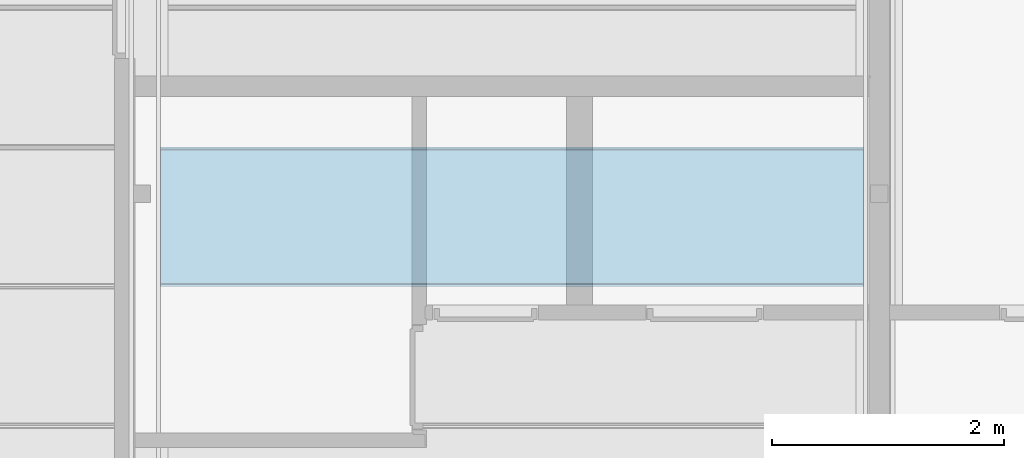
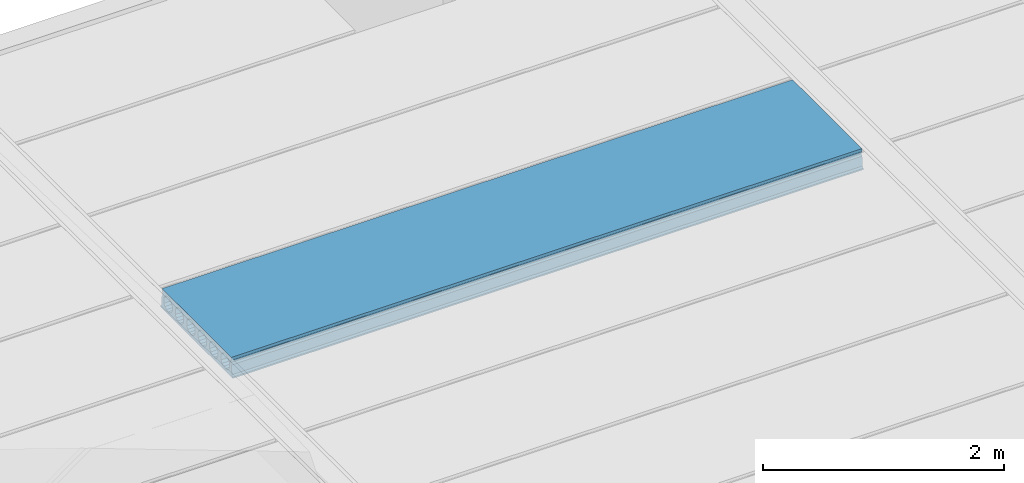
# One storey, part 13 of 45: 1 beam.
"""IFC2X3 building model written with IfcOpenShell, lengths in millimetres."""

from ifc_helpers import new_model, entity, si_unit, converted_unit, frame, origin, place, context, subcontext, project, spatial, faceted_brep, material, element, save


model = new_model("IFC2X3")

# Units and contexts
model_context = context("Model", 3, precision=1e-05, world=origin())
plan_context = context("Plan", 3, precision=1e-05, world=origin())
body_context = subcontext(model_context, "Body", "Model", "MODEL_VIEW")
ifc_project = project(units=[si_unit("LENGTHUNIT", "METRE", prefix="MILLI"), converted_unit("PLANEANGLEUNIT", "DEGREE", entity("IfcPlaneAngleMeasure", 0.0174532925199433), si_unit("PLANEANGLEUNIT", "RADIAN"), dimensions=[0, 0, 0, 0, 0, 0, 0]), si_unit("AREAUNIT", "SQUARE_METRE"), si_unit("VOLUMEUNIT", "CUBIC_METRE")], contexts=[model_context, plan_context])

# Building, storey
building_placement = place(None, origin())
building = spatial("IfcBuilding", under=ifc_project, at=building_placement, Name="HEKF Administrasjonbygg", CompositionType="ELEMENT")
storey_placement = place(building_placement, frame((0.0, 0.0, 6500.0), z_axis=(0.0, 0.0, 1.0), x_axis=(1.0, 0.0, 0.0)))
storey = spatial("IfcBuildingStorey", under=building, at=storey_placement, Name="Plan 1", CompositionType="ELEMENT", Elevation=6500.0)

# Beam
ifc_material = material()
beam_placement = place(storey_placement, frame((0.0, 0.0, -6500.0), z_axis=(0.0, 0.0, 1.0), x_axis=(1.0, 0.0, 0.0)))
element("IfcBeam", 1, at=beam_placement, inside=storey, material=ifc_material, context=body_context, shape_type="Brep", body=[
    faceted_brep([(10135.0, -3599.999999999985, 9684.999999), (10135.0, -3599.999999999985, 9670.0), (16189.99999999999, -3600.0, 9670.000000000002), (16189.99999999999, -3600.0, 9684.999999), (10135.0, -4799.999999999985, 9684.999999), (10135.0, -4799.999999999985, 9670.0), (10135.0, -3599.999999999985, 9670.0), (10135.0, -3599.999999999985, 9684.999999), (10135.0, -3614.99987952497, 9699.999998), (10135.0, -3620.000002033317, 9794.999985), (10135.0, -3635.000003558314, 9809.999985), (10135.0, -3635.000003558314, 9829.999985), (10135.0, -3622.727297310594, 9842.272583), (10135.0, -3624.047732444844, 9870.0), (10135.0, -4775.952372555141, 9870.0), (10135.0, -4777.272729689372, 9842.272735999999), (10135.0, -4765.000000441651, 9829.999985), (10135.0, -4765.000000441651, 9809.999985), (10135.0, -4780.000001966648, 9794.999985), (10135.0, -4784.999999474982, 9699.999998), (10135.0, -4674.999987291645, 9694.999989), (10135.0, -4703.701261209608, 9700.709023), (10135.0, -4728.033020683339, 9716.966995), (10135.0, -4744.290964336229, 9741.298752), (10135.0, -4744.290960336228, 9798.701262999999), (10135.0, -4728.032997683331, 9823.03299), (10135.0, -4703.70124620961, 9839.290955), (10135.0, -4674.999987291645, 9845.0), (10135.0, -4646.298721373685, 9839.290955), (10135.0, -4621.966976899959, 9823.033005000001), (10135.0, -4605.709010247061, 9798.701233), (10135.0, -4605.708980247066, 9741.298767), (10135.0, -4621.966961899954, 9716.966995), (10135.0, -4646.29870537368, 9700.709023), (10135.0, -4484.999967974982, 9694.999989), (10135.0, -4513.701241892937, 9700.709023), (10135.0, -4538.033001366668, 9716.966995), (10135.0, -4554.290945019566, 9741.298752), (10135.0, -4554.290941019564, 9798.701262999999), (10135.0, -4538.032978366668, 9823.03299), (10135.0, -4513.701226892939, 9839.290955), (10135.0, -4484.999967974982, 9845.0), (10135.0, -4456.298702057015, 9839.290955), (10135.0, -4431.966957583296, 9823.033005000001), (10135.0, -4415.708990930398, 9798.701233), (10135.0, -4415.708960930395, 9741.298767), (10135.0, -4431.966942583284, 9716.966995), (10135.0, -4456.298686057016, 9700.709023), (10135.0, -4294.999948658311, 9694.999989), (10135.0, -4323.701222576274, 9700.709023), (10135.0, -4348.032982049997, 9716.966995), (10135.0, -4364.290925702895, 9741.298752), (10135.0, -4364.290921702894, 9798.701262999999), (10135.0, -4348.032959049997, 9823.03299), (10135.0, -4323.701207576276, 9839.290955), (10135.0, -4294.999948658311, 9845.0), (10135.0, -4266.298682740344, 9839.290955), (10135.0, -4241.966938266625, 9823.033005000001), (10135.0, -4225.708971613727, 9798.701233), (10135.0, -4225.708941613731, 9741.298767), (10135.0, -4241.96692326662, 9716.966995), (10135.0, -4266.298666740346, 9700.709023), (10135.0, -4104.99992934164, 9694.999989), (10135.0, -4133.701203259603, 9700.709023), (10135.0, -4158.032962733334, 9716.966995), (10135.0, -4174.290906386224, 9741.298752), (10135.0, -4174.290902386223, 9798.701262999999), (10135.0, -4158.032939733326, 9823.03299), (10135.0, -4133.701188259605, 9839.290955), (10135.0, -4104.99992934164, 9845.0), (10135.0, -4076.29866342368, 9839.290955), (10135.0, -4051.966918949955, 9823.033005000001), (10135.0, -4035.708952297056, 9798.701233), (10135.0, -4035.708922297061, 9741.298767), (10135.0, -4051.96690394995, 9716.966995), (10135.0, -4076.298647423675, 9700.709023), (10135.0, -3914.999910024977, 9694.999989), (10135.0, -3943.701183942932, 9700.709023), (10135.0, -3968.032943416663, 9716.966995), (10135.0, -3984.290887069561, 9741.298752), (10135.0, -3984.29088306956, 9798.701262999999), (10135.0, -3968.032920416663, 9823.03299), (10135.0, -3943.701168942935, 9839.290955), (10135.0, -3914.999910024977, 9845.0), (10135.0, -3886.29864410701, 9839.290955), (10135.0, -3861.966899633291, 9823.033005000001), (10135.0, -3845.708932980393, 9798.701233), (10135.0, -3845.70890298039, 9741.298767), (10135.0, -3861.966884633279, 9716.966995), (10135.0, -3886.298628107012, 9700.709023), (10135.0, -3724.999890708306, 9694.999989), (10135.0, -3753.701164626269, 9700.709023), (10135.0, -3778.032924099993, 9716.966995), (10135.0, -3794.29086775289, 9741.298752), (10135.0, -3794.290863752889, 9798.701262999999), (10135.0, -3778.032901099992, 9823.03299), (10135.0, -3753.701149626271, 9839.290955), (10135.0, -3724.999890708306, 9845.0), (10135.0, -3696.298624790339, 9839.290955), (10135.0, -3671.966880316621, 9823.033005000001), (10135.0, -3655.708913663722, 9798.701233), (10135.0, -3655.708883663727, 9741.298767), (10135.0, -3671.966865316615, 9716.966995), (10135.0, -3696.298608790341, 9700.709023), (16190.0, -4800.0, 9684.999999), (16190.0, -4800.0, 9670.0), (10135.0, -4799.999999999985, 9670.0), (10135.0, -4799.999999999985, 9684.999999), (16189.99999999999, -3600.0, 9684.999999), (16189.99999999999, -3600.0, 9670.000000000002), (16190.0, -4800.0, 9670.0), (16190.0, -4800.0, 9684.999999), (16190.0, -4784.999999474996, 9699.999998), (16190.0, -4780.000001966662, 9794.999985), (16190.0, -4765.000000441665, 9809.999985), (16190.0, -4765.000000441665, 9829.999985), (16190.0, -4777.272729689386, 9842.272735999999), (16190.0, -4775.952372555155, 9870.0), (16190.0, -3624.047732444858, 9870.0), (16190.0, -3622.727297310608, 9842.272583), (16190.0, -3635.000003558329, 9829.999985), (16190.0, -3635.000003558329, 9809.999985), (16190.0, -3620.000002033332, 9794.999985), (16190.0, -3614.999879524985, 9699.999998), (16190.0, -3724.999890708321, 9694.999989), (16190.0, -3696.298608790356, 9700.709023), (16190.0, -3671.96686531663, 9716.966995), (16190.0, -3655.708883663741, 9741.298767), (16190.0, -3655.708913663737, 9798.701233), (16190.0, -3671.966880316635, 9823.033005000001), (16190.0, -3696.298624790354, 9839.290955), (16190.0, -3724.999890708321, 9845.0), (16190.0, -3753.701149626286, 9839.290955), (16190.0, -3778.032901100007, 9823.03299), (16190.0, -3794.290863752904, 9798.701262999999), (16190.0, -3794.290867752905, 9741.298752), (16190.0, -3778.032924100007, 9716.966995), (16190.0, -3753.701164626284, 9700.709023), (16190.0, -3914.999910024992, 9694.999989), (16190.0, -3886.298628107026, 9700.709023), (16190.0, -3861.966884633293, 9716.966995), (16190.0, -3845.708902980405, 9741.298767), (16190.0, -3845.708932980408, 9798.701233), (16190.0, -3861.966899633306, 9823.033005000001), (16190.0, -3886.298644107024, 9839.290955), (16190.0, -3914.999910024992, 9845.0), (16190.0, -3943.701168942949, 9839.290955), (16190.0, -3968.032920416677, 9823.03299), (16190.0, -3984.290883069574, 9798.701262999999), (16190.0, -3984.290887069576, 9741.298752), (16190.0, -3968.032943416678, 9716.966995), (16190.0, -3943.701183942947, 9700.709023), (16190.0, -4104.999929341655, 9694.999989), (16190.0, -4076.29864742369, 9700.709023), (16190.0, -4051.966903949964, 9716.966995), (16190.0, -4035.708922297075, 9741.298767), (16190.0, -4035.708952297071, 9798.701233), (16190.0, -4051.966918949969, 9823.033005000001), (16190.0, -4076.298663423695, 9839.290955), (16190.0, -4104.999929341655, 9845.0), (16190.0, -4133.70118825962, 9839.290955), (16190.0, -4158.032939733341, 9823.03299), (16190.0, -4174.290902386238, 9798.701262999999), (16190.0, -4174.290906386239, 9741.298752), (16190.0, -4158.032962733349, 9716.966995), (16190.0, -4133.701203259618, 9700.709023), (16190.0, -4294.999948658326, 9694.999989), (16190.0, -4266.29866674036, 9700.709023), (16190.0, -4241.966923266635, 9716.966995), (16190.0, -4225.708941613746, 9741.298767), (16190.0, -4225.708971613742, 9798.701233), (16190.0, -4241.96693826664, 9823.033005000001), (16190.0, -4266.298682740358, 9839.290955), (16190.0, -4294.999948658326, 9845.0), (16190.0, -4323.701207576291, 9839.290955), (16190.0, -4348.032959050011, 9823.03299), (16190.0, -4364.290921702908, 9798.701262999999), (16190.0, -4364.29092570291, 9741.298752), (16190.0, -4348.032982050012, 9716.966995), (16190.0, -4323.701222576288, 9700.709023), (16190.0, -4484.999967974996, 9694.999989), (16190.0, -4456.298686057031, 9700.709023), (16190.0, -4431.966942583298, 9716.966995), (16190.0, -4415.708960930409, 9741.298767), (16190.0, -4415.708990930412, 9798.701233), (16190.0, -4431.96695758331, 9823.033005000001), (16190.0, -4456.298702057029, 9839.290955), (16190.0, -4484.999967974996, 9845.0), (16190.0, -4513.701226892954, 9839.290955), (16190.0, -4538.032978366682, 9823.03299), (16190.0, -4554.290941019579, 9798.701262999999), (16190.0, -4554.29094501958, 9741.298752), (16190.0, -4538.033001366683, 9716.966995), (16190.0, -4513.701241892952, 9700.709023), (16190.0, -4674.99998729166, 9694.999989), (16190.0, -4646.298705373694, 9700.709023), (16190.0, -4621.966961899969, 9716.966995), (16190.0, -4605.70898024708, 9741.298767), (16190.0, -4605.709010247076, 9798.701233), (16190.0, -4621.966976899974, 9823.033005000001), (16190.0, -4646.2987213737, 9839.290955), (16190.0, -4674.99998729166, 9845.0), (16190.0, -4703.701246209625, 9839.290955), (16190.0, -4728.032997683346, 9823.03299), (16190.0, -4744.290960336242, 9798.701262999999), (16190.0, -4744.290964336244, 9741.298752), (16190.0, -4728.033020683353, 9716.966995), (16190.0, -4703.701261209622, 9700.709023), (10135.0, -4799.999999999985, 9684.999999), (10135.0, -4784.999999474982, 9699.999998), (16190.0, -4784.999999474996, 9699.999998), (16190.0, -4800.0, 9684.999999), (10135.0, -4784.999999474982, 9699.999998), (10135.0, -4780.000001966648, 9794.999985), (16190.0, -4780.000001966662, 9794.999985), (16190.0, -4784.999999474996, 9699.999998), (10135.0, -4780.000001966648, 9794.999985), (10135.0, -4765.000000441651, 9809.999985), (16190.0, -4765.000000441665, 9809.999985), (16190.0, -4780.000001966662, 9794.999985), (10135.0, -4765.000000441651, 9809.999985), (10135.0, -4765.000000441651, 9829.999985), (16190.0, -4765.000000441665, 9829.999985), (16190.0, -4765.000000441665, 9809.999985), (10135.0, -4765.000000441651, 9829.999985), (10135.0, -4777.272729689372, 9842.272735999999), (16190.0, -4777.272729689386, 9842.272735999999), (16190.0, -4765.000000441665, 9829.999985), (10135.0, -4777.272729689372, 9842.272735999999), (10135.0, -4775.952372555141, 9870.0), (16190.0, -4775.952372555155, 9870.0), (16190.0, -4777.272729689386, 9842.272735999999), (10135.0, -4775.952372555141, 9870.0), (10135.0, -3624.047732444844, 9870.0), (16190.0, -3624.047732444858, 9870.0), (16190.0, -4775.952372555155, 9870.0), (10135.0, -3624.047732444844, 9870.0), (10135.0, -3622.727297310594, 9842.272583), (16190.0, -3622.727297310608, 9842.272583), (16190.0, -3624.047732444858, 9870.0), (10135.0, -3622.727297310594, 9842.272583), (10135.0, -3635.000003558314, 9829.999985), (16190.0, -3635.000003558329, 9829.999985), (16190.0, -3622.727297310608, 9842.272583), (10135.0, -3635.000003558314, 9829.999985), (10135.0, -3635.000003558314, 9809.999985), (16190.0, -3635.000003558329, 9809.999985), (16190.0, -3635.000003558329, 9829.999985), (10135.0, -3635.000003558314, 9809.999985), (10135.0, -3620.000002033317, 9794.999985), (16190.0, -3620.000002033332, 9794.999985), (16190.0, -3635.000003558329, 9809.999985), (10135.0, -3620.000002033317, 9794.999985), (10135.0, -3614.99987952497, 9699.999998), (16190.0, -3614.999879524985, 9699.999998), (16190.0, -3620.000002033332, 9794.999985), (10135.0, -3614.99987952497, 9699.999998), (10135.0, -3599.999999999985, 9684.999999), (16189.99999999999, -3600.0, 9684.999999), (16190.0, -3614.999879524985, 9699.999998), (10135.0, -3599.999999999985, 9670.0), (10135.0, -4799.999999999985, 9670.0), (16190.0, -4800.0, 9670.0), (16189.99999999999, -3600.0, 9670.000000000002), (10135.0, -3724.999890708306, 9694.999989), (10135.0, -3696.298608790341, 9700.709023), (16190.0, -3696.298608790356, 9700.709023), (16190.0, -3724.999890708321, 9694.999989), (10135.0, -3696.298608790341, 9700.709023), (10135.0, -3671.966865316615, 9716.966995), (16190.0, -3671.96686531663, 9716.966995), (16190.0, -3696.298608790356, 9700.709023), (10135.0, -3671.966865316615, 9716.966995), (10135.0, -3655.708883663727, 9741.298767), (16190.0, -3655.708883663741, 9741.298767), (16190.0, -3671.96686531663, 9716.966995), (10135.0, -3655.708883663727, 9741.298767), (10135.0, -3655.708913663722, 9798.701233), (16190.0, -3655.708913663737, 9798.701233), (16190.0, -3655.708883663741, 9741.298767), (10135.0, -3655.708913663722, 9798.701233), (10135.0, -3671.966880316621, 9823.033005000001), (16190.0, -3671.966880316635, 9823.033005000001), (16190.0, -3655.708913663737, 9798.701233), (10135.0, -3671.966880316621, 9823.033005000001), (10135.0, -3696.298624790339, 9839.290955), (16190.0, -3696.298624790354, 9839.290955), (16190.0, -3671.966880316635, 9823.033005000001), (10135.0, -3696.298624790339, 9839.290955), (10135.0, -3724.999890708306, 9845.0), (16190.0, -3724.999890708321, 9845.0), (16190.0, -3696.298624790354, 9839.290955), (10135.0, -3724.999890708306, 9845.0), (10135.0, -3753.701149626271, 9839.290955), (16190.0, -3753.701149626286, 9839.290955), (16190.0, -3724.999890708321, 9845.0), (10135.0, -3753.701149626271, 9839.290955), (10135.0, -3778.032901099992, 9823.03299), (16190.0, -3778.032901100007, 9823.03299), (16190.0, -3753.701149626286, 9839.290955), (10135.0, -3778.032901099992, 9823.03299), (10135.0, -3794.290863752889, 9798.701262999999), (16190.0, -3794.290863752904, 9798.701262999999), (16190.0, -3778.032901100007, 9823.03299), (10135.0, -3794.290863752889, 9798.701262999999), (10135.0, -3794.29086775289, 9741.298752), (16190.0, -3794.290867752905, 9741.298752), (16190.0, -3794.290863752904, 9798.701262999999), (10135.0, -3794.29086775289, 9741.298752), (10135.0, -3778.032924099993, 9716.966995), (16190.0, -3778.032924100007, 9716.966995), (16190.0, -3794.290867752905, 9741.298752), (10135.0, -3778.032924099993, 9716.966995), (10135.0, -3753.701164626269, 9700.709023), (16190.0, -3753.701164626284, 9700.709023), (16190.0, -3778.032924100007, 9716.966995), (10135.0, -3753.701164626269, 9700.709023), (10135.0, -3724.999890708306, 9694.999989), (16190.0, -3724.999890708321, 9694.999989), (16190.0, -3753.701164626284, 9700.709023), (10135.0, -3914.999910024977, 9694.999989), (10135.0, -3886.298628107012, 9700.709023), (16190.0, -3886.298628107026, 9700.709023), (16190.0, -3914.999910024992, 9694.999989), (10135.0, -3886.298628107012, 9700.709023), (10135.0, -3861.966884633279, 9716.966995), (16190.0, -3861.966884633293, 9716.966995), (16190.0, -3886.298628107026, 9700.709023), (10135.0, -3861.966884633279, 9716.966995), (10135.0, -3845.70890298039, 9741.298767), (16190.0, -3845.708902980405, 9741.298767), (16190.0, -3861.966884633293, 9716.966995), (10135.0, -3845.70890298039, 9741.298767), (10135.0, -3845.708932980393, 9798.701233), (16190.0, -3845.708932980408, 9798.701233), (16190.0, -3845.708902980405, 9741.298767), (10135.0, -3845.708932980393, 9798.701233), (10135.0, -3861.966899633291, 9823.033005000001), (16190.0, -3861.966899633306, 9823.033005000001), (16190.0, -3845.708932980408, 9798.701233), (10135.0, -3861.966899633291, 9823.033005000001), (10135.0, -3886.29864410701, 9839.290955), (16190.0, -3886.298644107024, 9839.290955), (16190.0, -3861.966899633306, 9823.033005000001), (10135.0, -3886.29864410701, 9839.290955), (10135.0, -3914.999910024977, 9845.0), (16190.0, -3914.999910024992, 9845.0), (16190.0, -3886.298644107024, 9839.290955), (10135.0, -3914.999910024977, 9845.0), (10135.0, -3943.701168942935, 9839.290955), (16190.0, -3943.701168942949, 9839.290955), (16190.0, -3914.999910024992, 9845.0), (10135.0, -3943.701168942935, 9839.290955), (10135.0, -3968.032920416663, 9823.03299), (16190.0, -3968.032920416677, 9823.03299), (16190.0, -3943.701168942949, 9839.290955), (10135.0, -3968.032920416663, 9823.03299), (10135.0, -3984.29088306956, 9798.701262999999), (16190.0, -3984.290883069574, 9798.701262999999), (16190.0, -3968.032920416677, 9823.03299), (10135.0, -3984.29088306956, 9798.701262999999), (10135.0, -3984.290887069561, 9741.298752), (16190.0, -3984.290887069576, 9741.298752), (16190.0, -3984.290883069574, 9798.701262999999), (10135.0, -3984.290887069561, 9741.298752), (10135.0, -3968.032943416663, 9716.966995), (16190.0, -3968.032943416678, 9716.966995), (16190.0, -3984.290887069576, 9741.298752), (10135.0, -3968.032943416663, 9716.966995), (10135.0, -3943.701183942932, 9700.709023), (16190.0, -3943.701183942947, 9700.709023), (16190.0, -3968.032943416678, 9716.966995), (10135.0, -3943.701183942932, 9700.709023), (10135.0, -3914.999910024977, 9694.999989), (16190.0, -3914.999910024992, 9694.999989), (16190.0, -3943.701183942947, 9700.709023), (10135.0, -4104.99992934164, 9694.999989), (10135.0, -4076.298647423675, 9700.709023), (16190.0, -4076.29864742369, 9700.709023), (16190.0, -4104.999929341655, 9694.999989), (10135.0, -4076.298647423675, 9700.709023), (10135.0, -4051.96690394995, 9716.966995), (16190.0, -4051.966903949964, 9716.966995), (16190.0, -4076.29864742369, 9700.709023), (10135.0, -4051.96690394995, 9716.966995), (10135.0, -4035.708922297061, 9741.298767), (16190.0, -4035.708922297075, 9741.298767), (16190.0, -4051.966903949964, 9716.966995), (10135.0, -4035.708922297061, 9741.298767), (10135.0, -4035.708952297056, 9798.701233), (16190.0, -4035.708952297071, 9798.701233), (16190.0, -4035.708922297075, 9741.298767), (10135.0, -4035.708952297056, 9798.701233), (10135.0, -4051.966918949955, 9823.033005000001), (16190.0, -4051.966918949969, 9823.033005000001), (16190.0, -4035.708952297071, 9798.701233), (10135.0, -4051.966918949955, 9823.033005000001), (10135.0, -4076.29866342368, 9839.290955), (16190.0, -4076.298663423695, 9839.290955), (16190.0, -4051.966918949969, 9823.033005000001), (10135.0, -4076.29866342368, 9839.290955), (10135.0, -4104.99992934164, 9845.0), (16190.0, -4104.999929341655, 9845.0), (16190.0, -4076.298663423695, 9839.290955), (10135.0, -4104.99992934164, 9845.0), (10135.0, -4133.701188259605, 9839.290955), (16190.0, -4133.70118825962, 9839.290955), (16190.0, -4104.999929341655, 9845.0), (10135.0, -4133.701188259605, 9839.290955), (10135.0, -4158.032939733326, 9823.03299), (16190.0, -4158.032939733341, 9823.03299), (16190.0, -4133.70118825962, 9839.290955), (10135.0, -4158.032939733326, 9823.03299), (10135.0, -4174.290902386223, 9798.701262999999), (16190.0, -4174.290902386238, 9798.701262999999), (16190.0, -4158.032939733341, 9823.03299), (10135.0, -4174.290902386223, 9798.701262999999), (10135.0, -4174.290906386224, 9741.298752), (16190.0, -4174.290906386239, 9741.298752), (16190.0, -4174.290902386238, 9798.701262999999), (10135.0, -4174.290906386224, 9741.298752), (10135.0, -4158.032962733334, 9716.966995), (16190.0, -4158.032962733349, 9716.966995), (16190.0, -4174.290906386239, 9741.298752), (10135.0, -4158.032962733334, 9716.966995), (10135.0, -4133.701203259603, 9700.709023), (16190.0, -4133.701203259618, 9700.709023), (16190.0, -4158.032962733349, 9716.966995), (10135.0, -4133.701203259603, 9700.709023), (10135.0, -4104.99992934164, 9694.999989), (16190.0, -4104.999929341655, 9694.999989), (16190.0, -4133.701203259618, 9700.709023), (10135.0, -4294.999948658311, 9694.999989), (10135.0, -4266.298666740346, 9700.709023), (16190.0, -4266.29866674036, 9700.709023), (16190.0, -4294.999948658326, 9694.999989), (10135.0, -4266.298666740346, 9700.709023), (10135.0, -4241.96692326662, 9716.966995), (16190.0, -4241.966923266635, 9716.966995), (16190.0, -4266.29866674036, 9700.709023), (10135.0, -4241.96692326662, 9716.966995), (10135.0, -4225.708941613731, 9741.298767), (16190.0, -4225.708941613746, 9741.298767), (16190.0, -4241.966923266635, 9716.966995), (10135.0, -4225.708941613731, 9741.298767), (10135.0, -4225.708971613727, 9798.701233), (16190.0, -4225.708971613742, 9798.701233), (16190.0, -4225.708941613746, 9741.298767), (10135.0, -4225.708971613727, 9798.701233), (10135.0, -4241.966938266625, 9823.033005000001), (16190.0, -4241.96693826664, 9823.033005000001), (16190.0, -4225.708971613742, 9798.701233), (10135.0, -4241.966938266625, 9823.033005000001), (10135.0, -4266.298682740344, 9839.290955), (16190.0, -4266.298682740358, 9839.290955), (16190.0, -4241.96693826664, 9823.033005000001), (10135.0, -4266.298682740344, 9839.290955), (10135.0, -4294.999948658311, 9845.0), (16190.0, -4294.999948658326, 9845.0), (16190.0, -4266.298682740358, 9839.290955), (10135.0, -4294.999948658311, 9845.0), (10135.0, -4323.701207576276, 9839.290955), (16190.0, -4323.701207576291, 9839.290955), (16190.0, -4294.999948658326, 9845.0), (10135.0, -4323.701207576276, 9839.290955), (10135.0, -4348.032959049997, 9823.03299), (16190.0, -4348.032959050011, 9823.03299), (16190.0, -4323.701207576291, 9839.290955), (10135.0, -4348.032959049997, 9823.03299), (10135.0, -4364.290921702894, 9798.701262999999), (16190.0, -4364.290921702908, 9798.701262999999), (16190.0, -4348.032959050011, 9823.03299), (10135.0, -4364.290921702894, 9798.701262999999), (10135.0, -4364.290925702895, 9741.298752), (16190.0, -4364.29092570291, 9741.298752), (16190.0, -4364.290921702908, 9798.701262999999), (10135.0, -4364.290925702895, 9741.298752), (10135.0, -4348.032982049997, 9716.966995), (16190.0, -4348.032982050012, 9716.966995), (16190.0, -4364.29092570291, 9741.298752), (10135.0, -4348.032982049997, 9716.966995), (10135.0, -4323.701222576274, 9700.709023), (16190.0, -4323.701222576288, 9700.709023), (16190.0, -4348.032982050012, 9716.966995), (10135.0, -4323.701222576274, 9700.709023), (10135.0, -4294.999948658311, 9694.999989), (16190.0, -4294.999948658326, 9694.999989), (16190.0, -4323.701222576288, 9700.709023), (10135.0, -4484.999967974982, 9694.999989), (10135.0, -4456.298686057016, 9700.709023), (16190.0, -4456.298686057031, 9700.709023), (16190.0, -4484.999967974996, 9694.999989), (10135.0, -4456.298686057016, 9700.709023), (10135.0, -4431.966942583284, 9716.966995), (16190.0, -4431.966942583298, 9716.966995), (16190.0, -4456.298686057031, 9700.709023), (10135.0, -4431.966942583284, 9716.966995), (10135.0, -4415.708960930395, 9741.298767), (16190.0, -4415.708960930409, 9741.298767), (16190.0, -4431.966942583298, 9716.966995), (10135.0, -4415.708960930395, 9741.298767), (10135.0, -4415.708990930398, 9798.701233), (16190.0, -4415.708990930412, 9798.701233), (16190.0, -4415.708960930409, 9741.298767), (10135.0, -4415.708990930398, 9798.701233), (10135.0, -4431.966957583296, 9823.033005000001), (16190.0, -4431.96695758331, 9823.033005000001), (16190.0, -4415.708990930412, 9798.701233), (10135.0, -4431.966957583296, 9823.033005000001), (10135.0, -4456.298702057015, 9839.290955), (16190.0, -4456.298702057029, 9839.290955), (16190.0, -4431.96695758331, 9823.033005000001), (10135.0, -4456.298702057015, 9839.290955), (10135.0, -4484.999967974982, 9845.0), (16190.0, -4484.999967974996, 9845.0), (16190.0, -4456.298702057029, 9839.290955), (10135.0, -4484.999967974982, 9845.0), (10135.0, -4513.701226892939, 9839.290955), (16190.0, -4513.701226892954, 9839.290955), (16190.0, -4484.999967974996, 9845.0), (10135.0, -4513.701226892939, 9839.290955), (10135.0, -4538.032978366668, 9823.03299), (16190.0, -4538.032978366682, 9823.03299), (16190.0, -4513.701226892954, 9839.290955), (10135.0, -4538.032978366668, 9823.03299), (10135.0, -4554.290941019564, 9798.701262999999), (16190.0, -4554.290941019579, 9798.701262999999), (16190.0, -4538.032978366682, 9823.03299), (10135.0, -4554.290941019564, 9798.701262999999), (10135.0, -4554.290945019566, 9741.298752), (16190.0, -4554.29094501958, 9741.298752), (16190.0, -4554.290941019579, 9798.701262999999), (10135.0, -4554.290945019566, 9741.298752), (10135.0, -4538.033001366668, 9716.966995), (16190.0, -4538.033001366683, 9716.966995), (16190.0, -4554.29094501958, 9741.298752), (10135.0, -4538.033001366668, 9716.966995), (10135.0, -4513.701241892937, 9700.709023), (16190.0, -4513.701241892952, 9700.709023), (16190.0, -4538.033001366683, 9716.966995), (10135.0, -4513.701241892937, 9700.709023), (10135.0, -4484.999967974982, 9694.999989), (16190.0, -4484.999967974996, 9694.999989), (16190.0, -4513.701241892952, 9700.709023), (10135.0, -4674.999987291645, 9694.999989), (10135.0, -4646.29870537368, 9700.709023), (16190.0, -4646.298705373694, 9700.709023), (16190.0, -4674.99998729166, 9694.999989), (10135.0, -4646.29870537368, 9700.709023), (10135.0, -4621.966961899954, 9716.966995), (16190.0, -4621.966961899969, 9716.966995), (16190.0, -4646.298705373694, 9700.709023), (10135.0, -4621.966961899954, 9716.966995), (10135.0, -4605.708980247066, 9741.298767), (16190.0, -4605.70898024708, 9741.298767), (16190.0, -4621.966961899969, 9716.966995), (10135.0, -4605.708980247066, 9741.298767), (10135.0, -4605.709010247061, 9798.701233), (16190.0, -4605.709010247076, 9798.701233), (16190.0, -4605.70898024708, 9741.298767), (10135.0, -4605.709010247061, 9798.701233), (10135.0, -4621.966976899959, 9823.033005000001), (16190.0, -4621.966976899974, 9823.033005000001), (16190.0, -4605.709010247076, 9798.701233), (10135.0, -4621.966976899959, 9823.033005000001), (10135.0, -4646.298721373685, 9839.290955), (16190.0, -4646.2987213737, 9839.290955), (16190.0, -4621.966976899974, 9823.033005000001), (10135.0, -4646.298721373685, 9839.290955), (10135.0, -4674.999987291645, 9845.0), (16190.0, -4674.99998729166, 9845.0), (16190.0, -4646.2987213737, 9839.290955), (10135.0, -4674.999987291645, 9845.0), (10135.0, -4703.70124620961, 9839.290955), (16190.0, -4703.701246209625, 9839.290955), (16190.0, -4674.99998729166, 9845.0), (10135.0, -4703.70124620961, 9839.290955), (10135.0, -4728.032997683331, 9823.03299), (16190.0, -4728.032997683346, 9823.03299), (16190.0, -4703.701246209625, 9839.290955), (10135.0, -4728.032997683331, 9823.03299), (10135.0, -4744.290960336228, 9798.701262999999), (16190.0, -4744.290960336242, 9798.701262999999), (16190.0, -4728.032997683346, 9823.03299), (10135.0, -4744.290960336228, 9798.701262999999), (10135.0, -4744.290964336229, 9741.298752), (16190.0, -4744.290964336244, 9741.298752), (16190.0, -4744.290960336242, 9798.701262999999), (10135.0, -4744.290964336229, 9741.298752), (10135.0, -4728.033020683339, 9716.966995), (16190.0, -4728.033020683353, 9716.966995), (16190.0, -4744.290964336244, 9741.298752), (10135.0, -4728.033020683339, 9716.966995), (10135.0, -4703.701261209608, 9700.709023), (16190.0, -4703.701261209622, 9700.709023), (16190.0, -4728.033020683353, 9716.966995), (10135.0, -4703.701261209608, 9700.709023), (10135.0, -4674.999987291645, 9694.999989), (16190.0, -4674.99998729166, 9694.999989), (16190.0, -4703.701261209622, 9700.709023)], [[[0, 1, 2, 3]], [[4, 5, 6, 7, 8, 9, 10, 11, 12, 13, 14, 15, 16, 17, 18, 19], [20, 21, 22, 23, 24, 25, 26, 27, 28, 29, 30, 31, 32, 33], [34, 35, 36, 37, 38, 39, 40, 41, 42, 43, 44, 45, 46, 47], [48, 49, 50, 51, 52, 53, 54, 55, 56, 57, 58, 59, 60, 61], [62, 63, 64, 65, 66, 67, 68, 69, 70, 71, 72, 73, 74, 75], [76, 77, 78, 79, 80, 81, 82, 83, 84, 85, 86, 87, 88, 89], [90, 91, 92, 93, 94, 95, 96, 97, 98, 99, 100, 101, 102, 103]], [[104, 105, 106, 107]], [[108, 109, 110, 111, 112, 113, 114, 115, 116, 117, 118, 119, 120, 121, 122, 123], [124, 125, 126, 127, 128, 129, 130, 131, 132, 133, 134, 135, 136, 137], [138, 139, 140, 141, 142, 143, 144, 145, 146, 147, 148, 149, 150, 151], [152, 153, 154, 155, 156, 157, 158, 159, 160, 161, 162, 163, 164, 165], [166, 167, 168, 169, 170, 171, 172, 173, 174, 175, 176, 177, 178, 179], [180, 181, 182, 183, 184, 185, 186, 187, 188, 189, 190, 191, 192, 193], [194, 195, 196, 197, 198, 199, 200, 201, 202, 203, 204, 205, 206, 207]], [[208, 209, 210, 211]], [[212, 213, 214, 215]], [[216, 217, 218, 219]], [[220, 221, 222, 223]], [[224, 225, 226, 227]], [[228, 229, 230, 231]], [[232, 233, 234, 235]], [[236, 237, 238, 239]], [[240, 241, 242, 243]], [[244, 245, 246, 247]], [[248, 249, 250, 251]], [[252, 253, 254, 255]], [[256, 257, 258, 259]], [[260, 261, 262, 263]], [[264, 265, 266, 267]], [[268, 269, 270, 271]], [[272, 273, 274, 275]], [[276, 277, 278, 279]], [[280, 281, 282, 283]], [[284, 285, 286, 287]], [[288, 289, 290, 291]], [[292, 293, 294, 295]], [[296, 297, 298, 299]], [[300, 301, 302, 303]], [[304, 305, 306, 307]], [[308, 309, 310, 311]], [[312, 313, 314, 315]], [[316, 317, 318, 319]], [[320, 321, 322, 323]], [[324, 325, 326, 327]], [[328, 329, 330, 331]], [[332, 333, 334, 335]], [[336, 337, 338, 339]], [[340, 341, 342, 343]], [[344, 345, 346, 347]], [[348, 349, 350, 351]], [[352, 353, 354, 355]], [[356, 357, 358, 359]], [[360, 361, 362, 363]], [[364, 365, 366, 367]], [[368, 369, 370, 371]], [[372, 373, 374, 375]], [[376, 377, 378, 379]], [[380, 381, 382, 383]], [[384, 385, 386, 387]], [[388, 389, 390, 391]], [[392, 393, 394, 395]], [[396, 397, 398, 399]], [[400, 401, 402, 403]], [[404, 405, 406, 407]], [[408, 409, 410, 411]], [[412, 413, 414, 415]], [[416, 417, 418, 419]], [[420, 421, 422, 423]], [[424, 425, 426, 427]], [[428, 429, 430, 431]], [[432, 433, 434, 435]], [[436, 437, 438, 439]], [[440, 441, 442, 443]], [[444, 445, 446, 447]], [[448, 449, 450, 451]], [[452, 453, 454, 455]], [[456, 457, 458, 459]], [[460, 461, 462, 463]], [[464, 465, 466, 467]], [[468, 469, 470, 471]], [[472, 473, 474, 475]], [[476, 477, 478, 479]], [[480, 481, 482, 483]], [[484, 485, 486, 487]], [[488, 489, 490, 491]], [[492, 493, 494, 495]], [[496, 497, 498, 499]], [[500, 501, 502, 503]], [[504, 505, 506, 507]], [[508, 509, 510, 511]], [[512, 513, 514, 515]], [[516, 517, 518, 519]], [[520, 521, 522, 523]], [[524, 525, 526, 527]], [[528, 529, 530, 531]], [[532, 533, 534, 535]], [[536, 537, 538, 539]], [[540, 541, 542, 543]], [[544, 545, 546, 547]], [[548, 549, 550, 551]], [[552, 553, 554, 555]], [[556, 557, 558, 559]], [[560, 561, 562, 563]], [[564, 565, 566, 567]], [[568, 569, 570, 571]], [[572, 573, 574, 575]], [[576, 577, 578, 579]], [[580, 581, 582, 583]], [[584, 585, 586, 587]], [[588, 589, 590, 591]], [[592, 593, 594, 595]], [[596, 597, 598, 599]]], orient=[[False], [False, False, False, False, False, False, False], [False], [False, False, False, False, False, False, False], [False], [False], [False], [False], [False], [False], [False], [False], [False], [False], [False], [False], [False], [False], [False], [False], [False], [False], [False], [False], [False], [False], [False], [False], [False], [False], [False], [False], [False], [False], [False], [False], [False], [False], [False], [False], [False], [False], [False], [False], [False], [False], [False], [False], [False], [False], [False], [False], [False], [False], [False], [False], [False], [False], [False], [False], [False], [False], [False], [False], [False], [False], [False], [False], [False], [False], [False], [False], [False], [False], [False], [False], [False], [False], [False], [False], [False], [False], [False], [False], [False], [False], [False], [False], [False], [False], [False], [False], [False], [False], [False], [False], [False], [False], [False], [False], [False], [False]]),
])

save(model, "model.ifc")
